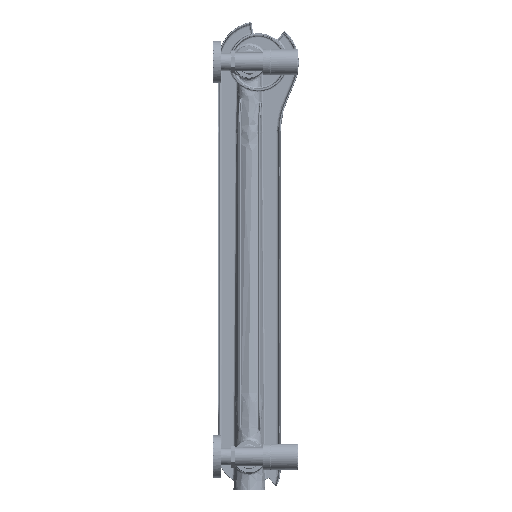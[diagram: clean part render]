
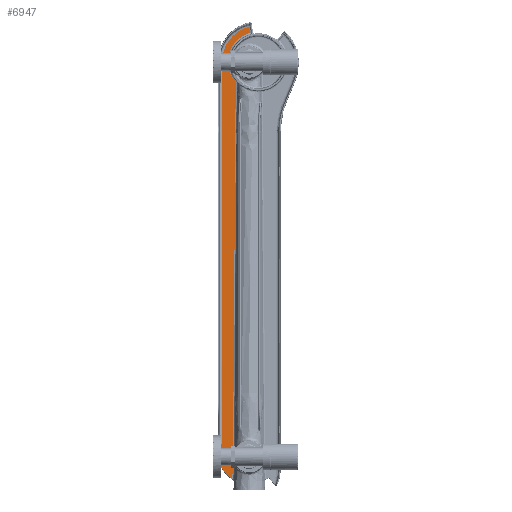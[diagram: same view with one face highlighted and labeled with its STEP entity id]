
A CAD part, left-side view. The second image highlights one B-rep face of the part: STEP entity #6947.
In plain terms, the highlighted planar face has unit normal (-1, 0, 0).
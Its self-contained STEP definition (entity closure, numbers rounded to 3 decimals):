
#6947=ADVANCED_FACE('',(#14687),#112179,.T.);
#14687=FACE_OUTER_BOUND('',#22466,.T.);
#22466=EDGE_LOOP('',(#55105,#55106,#55107,#55108,#55109,#55110,#55111,#55112,
#55113,#55114,#55115,#55116,#55117,#55118));
#55105=ORIENTED_EDGE('',*,*,#74740,.T.);
#55106=ORIENTED_EDGE('',*,*,#74744,.T.);
#55107=ORIENTED_EDGE('',*,*,#74747,.T.);
#55108=ORIENTED_EDGE('',*,*,#75002,.T.);
#55109=ORIENTED_EDGE('',*,*,#74279,.T.);
#55110=ORIENTED_EDGE('',*,*,#74276,.T.);
#55111=ORIENTED_EDGE('',*,*,#74821,.T.);
#55112=ORIENTED_EDGE('',*,*,#74822,.T.);
#55113=ORIENTED_EDGE('',*,*,#74826,.T.);
#55114=ORIENTED_EDGE('',*,*,#74836,.T.);
#55115=ORIENTED_EDGE('',*,*,#74783,.T.);
#55116=ORIENTED_EDGE('',*,*,#74782,.T.);
#55117=ORIENTED_EDGE('',*,*,#74738,.T.);
#55118=ORIENTED_EDGE('',*,*,#73978,.T.);
#73978=EDGE_CURVE('',#103365,#103369,#87732,.T.);
#74276=EDGE_CURVE('',#103548,#103567,#93491,.T.);
#74279=EDGE_CURVE('',#103518,#103548,#93494,.T.);
#74738=EDGE_CURVE('',#103824,#103365,#88300,.T.);
#74740=EDGE_CURVE('',#103369,#103830,#88302,.T.);
#74744=EDGE_CURVE('',#103830,#103832,#88306,.T.);
#74747=EDGE_CURVE('',#103832,#103834,#88309,.T.);
#74782=EDGE_CURVE('',#103857,#103824,#88337,.T.);
#74783=EDGE_CURVE('',#103859,#103857,#93623,.T.);
#74821=EDGE_CURVE('',#103567,#103879,#88368,.T.);
#74822=EDGE_CURVE('',#103879,#103881,#93631,.T.);
#74826=EDGE_CURVE('',#103881,#103883,#88371,.T.);
#74836=EDGE_CURVE('',#103883,#103859,#93633,.T.);
#75002=EDGE_CURVE('',#103834,#103518,#88498,.T.);
#87732=(
BOUNDED_CURVE()
B_SPLINE_CURVE(2,(#375368,#375369,#375370),.UNSPECIFIED.,.F.,.F.)
B_SPLINE_CURVE_WITH_KNOTS((3,3),(-24.275,0.),.UNSPECIFIED.)
CURVE()
GEOMETRIC_REPRESENTATION_ITEM()
RATIONAL_B_SPLINE_CURVE((1.,0.871,1.))
REPRESENTATION_ITEM('')
);
#88300=(
BOUNDED_CURVE()
B_SPLINE_CURVE(3,(#380344,#380345,#380346,#380347),.UNSPECIFIED.,.F.,.F.)
B_SPLINE_CURVE_WITH_KNOTS((4,4),(-1.,0.),.UNSPECIFIED.)
CURVE()
GEOMETRIC_REPRESENTATION_ITEM()
RATIONAL_B_SPLINE_CURVE((1.,1.,1.,1.))
REPRESENTATION_ITEM('')
);
#88302=(
BOUNDED_CURVE()
B_SPLINE_CURVE(3,(#380352,#380353,#380354,#380355),.UNSPECIFIED.,.F.,.F.)
B_SPLINE_CURVE_WITH_KNOTS((4,4),(0.,1.),.UNSPECIFIED.)
CURVE()
GEOMETRIC_REPRESENTATION_ITEM()
RATIONAL_B_SPLINE_CURVE((1.,1.,1.,1.))
REPRESENTATION_ITEM('')
);
#88306=(
BOUNDED_CURVE()
B_SPLINE_CURVE(3,(#380366,#380367,#380368,#380369),.UNSPECIFIED.,.F.,.F.)
B_SPLINE_CURVE_WITH_KNOTS((4,4),(0.,1.),.UNSPECIFIED.)
CURVE()
GEOMETRIC_REPRESENTATION_ITEM()
RATIONAL_B_SPLINE_CURVE((1.,1.,1.,1.))
REPRESENTATION_ITEM('')
);
#88309=(
BOUNDED_CURVE()
B_SPLINE_CURVE(3,(#380377,#380378,#380379,#380380),.UNSPECIFIED.,.F.,.F.)
B_SPLINE_CURVE_WITH_KNOTS((4,4),(0.,1.),.UNSPECIFIED.)
CURVE()
GEOMETRIC_REPRESENTATION_ITEM()
RATIONAL_B_SPLINE_CURVE((1.,1.,1.,1.))
REPRESENTATION_ITEM('')
);
#88337=(
BOUNDED_CURVE()
B_SPLINE_CURVE(2,(#380525,#380526,#380527),.UNSPECIFIED.,.F.,.F.)
B_SPLINE_CURVE_WITH_KNOTS((3,3),(0.,39.461),.UNSPECIFIED.)
CURVE()
GEOMETRIC_REPRESENTATION_ITEM()
RATIONAL_B_SPLINE_CURVE((1.,0.878,1.))
REPRESENTATION_ITEM('')
);
#88368=(
BOUNDED_CURVE()
B_SPLINE_CURVE(2,(#380671,#380672,#380673),.UNSPECIFIED.,.F.,.F.)
B_SPLINE_CURVE_WITH_KNOTS((3,3),(0.,60.311),.UNSPECIFIED.)
CURVE()
GEOMETRIC_REPRESENTATION_ITEM()
RATIONAL_B_SPLINE_CURVE((1.,0.793,1.))
REPRESENTATION_ITEM('')
);
#88371=(
BOUNDED_CURVE()
B_SPLINE_CURVE(3,(#380689,#380690,#380691,#380692,#380693,#380694,#380695,
#380696),.UNSPECIFIED.,.F.,.F.)
B_SPLINE_CURVE_WITH_KNOTS((4,2,2,4),(-1.,-0.75,-0.5,0.),
 .UNSPECIFIED.)
CURVE()
GEOMETRIC_REPRESENTATION_ITEM()
RATIONAL_B_SPLINE_CURVE((1.,1.,1.,1.,1.,1.,1.,1.))
REPRESENTATION_ITEM('')
);
#88498=(
BOUNDED_CURVE()
B_SPLINE_CURVE(3,(#381570,#381571,#381572,#381573),.UNSPECIFIED.,.F.,.F.)
B_SPLINE_CURVE_WITH_KNOTS((4,4),(0.,1.),.UNSPECIFIED.)
CURVE()
GEOMETRIC_REPRESENTATION_ITEM()
RATIONAL_B_SPLINE_CURVE((1.,1.,1.,1.))
REPRESENTATION_ITEM('')
);
#93491=B_SPLINE_CURVE_WITH_KNOTS('',1,(#377832,#377833),.UNSPECIFIED.,.F.,
 .F.,(2,2),(0.,7.755),.UNSPECIFIED.);
#93494=B_SPLINE_CURVE_WITH_KNOTS('',3,(#377838,#377839,#377840,#377841,
#377842,#377843,#377844,#377845,#377846,#377847,#377848,#377849,#377850,
#377851),.UNSPECIFIED.,.F.,.F.,(4,2,2,2,2,2,4),(0.,0.25,0.375,
0.5,0.625,0.75,1.),.UNSPECIFIED.);
#93623=B_SPLINE_CURVE_WITH_KNOTS('',1,(#380528,#380529),.UNSPECIFIED.,.F.,
 .F.,(2,2),(0.,0.674),.UNSPECIFIED.);
#93631=B_SPLINE_CURVE_WITH_KNOTS('',1,(#380674,#380675),.UNSPECIFIED.,.F.,
 .F.,(2,2),(0.,478.221),.UNSPECIFIED.);
#93633=B_SPLINE_CURVE_WITH_KNOTS('',1,(#380731,#380732),.UNSPECIFIED.,.F.,
 .F.,(2,2),(0.,1.344),.UNSPECIFIED.);
#103365=VERTEX_POINT('',#373080);
#103369=VERTEX_POINT('',#373084);
#103518=VERTEX_POINT('',#373233);
#103548=VERTEX_POINT('',#373263);
#103567=VERTEX_POINT('',#373282);
#103824=VERTEX_POINT('',#373539);
#103830=VERTEX_POINT('',#373545);
#103832=VERTEX_POINT('',#373547);
#103834=VERTEX_POINT('',#373549);
#103857=VERTEX_POINT('',#373572);
#103859=VERTEX_POINT('',#373574);
#103879=VERTEX_POINT('',#373594);
#103881=VERTEX_POINT('',#373596);
#103883=VERTEX_POINT('',#373598);
#112179=PLANE('',#113575);
#113575=AXIS2_PLACEMENT_3D('',#364474,#114467,$);
#114467=DIRECTION('',(-1.,0.,0.));
#364474=CARTESIAN_POINT('',(-26.254,12.606,17.603));
#373080=CARTESIAN_POINT('',(-26.254,10.275,25.09));
#373084=CARTESIAN_POINT('',(-26.254,10.232,27.412));
#373233=CARTESIAN_POINT('',(-26.254,9.904,73.673));
#373263=CARTESIAN_POINT('',(-26.254,8.093,79.896));
#373282=CARTESIAN_POINT('',(-26.254,8.228,80.66));
#373539=CARTESIAN_POINT('',(-26.254,10.328,23.391));
#373545=CARTESIAN_POINT('',(-26.254,10.191,33.179));
#373547=CARTESIAN_POINT('',(-26.254,9.949,67.358));
#373549=CARTESIAN_POINT('',(-26.254,9.912,72.68));
#373572=CARTESIAN_POINT('',(-26.254,12.141,26.712));
#373574=CARTESIAN_POINT('',(-26.254,12.141,26.78));
#373594=CARTESIAN_POINT('',(-26.254,11.645,76.212));
#373596=CARTESIAN_POINT('',(-26.254,11.645,28.39));
#373598=CARTESIAN_POINT('',(-26.254,12.006,26.78));
#375368=CARTESIAN_POINT('',(-26.254,10.275,25.09));
#375369=CARTESIAN_POINT('',(-26.254,10.907,26.263));
#375370=CARTESIAN_POINT('',(-26.254,10.232,27.412));
#377832=CARTESIAN_POINT('',(-26.254,8.093,79.896));
#377833=CARTESIAN_POINT('',(-26.254,8.228,80.66));
#377838=CARTESIAN_POINT('',(-26.254,9.904,73.673));
#377839=CARTESIAN_POINT('',(-26.254,10.336,74.159));
#377840=CARTESIAN_POINT('',(-26.254,10.636,74.746));
#377841=CARTESIAN_POINT('',(-26.254,10.849,75.691));
#377842=CARTESIAN_POINT('',(-26.254,10.879,76.014));
#377843=CARTESIAN_POINT('',(-26.254,10.859,76.655));
#377844=CARTESIAN_POINT('',(-26.254,10.808,76.979));
#377845=CARTESIAN_POINT('',(-26.254,10.628,77.594));
#377846=CARTESIAN_POINT('',(-26.254,10.5,77.892));
#377847=CARTESIAN_POINT('',(-26.254,10.17,78.447));
#377848=CARTESIAN_POINT('',(-26.254,9.973,78.7));
#377849=CARTESIAN_POINT('',(-26.254,9.287,79.383));
#377850=CARTESIAN_POINT('',(-26.254,8.716,79.718));
#377851=CARTESIAN_POINT('',(-26.254,8.093,79.896));
#380344=CARTESIAN_POINT('',(-26.254,10.328,23.391));
#380345=CARTESIAN_POINT('',(-26.254,10.31,23.957));
#380346=CARTESIAN_POINT('',(-26.254,10.293,24.523));
#380347=CARTESIAN_POINT('',(-26.254,10.275,25.09));
#380352=CARTESIAN_POINT('',(-26.254,10.232,27.412));
#380353=CARTESIAN_POINT('',(-26.254,10.218,29.334));
#380354=CARTESIAN_POINT('',(-26.254,10.204,31.256));
#380355=CARTESIAN_POINT('',(-26.254,10.191,33.179));
#380366=CARTESIAN_POINT('',(-26.254,10.191,33.179));
#380367=CARTESIAN_POINT('',(-26.254,10.11,44.572));
#380368=CARTESIAN_POINT('',(-26.254,10.03,55.965));
#380369=CARTESIAN_POINT('',(-26.254,9.949,67.358));
#380377=CARTESIAN_POINT('',(-26.254,9.949,67.358));
#380378=CARTESIAN_POINT('',(-26.254,9.937,69.132));
#380379=CARTESIAN_POINT('',(-26.254,9.924,70.906));
#380380=CARTESIAN_POINT('',(-26.254,9.912,72.68));
#380525=CARTESIAN_POINT('',(-26.254,12.141,26.712));
#380526=CARTESIAN_POINT('',(-26.254,12.141,24.557));
#380527=CARTESIAN_POINT('',(-26.254,10.328,23.391));
#380528=CARTESIAN_POINT('',(-26.254,12.141,26.78));
#380529=CARTESIAN_POINT('',(-26.254,12.141,26.712));
#380671=CARTESIAN_POINT('',(-26.254,8.228,80.66));
#380672=CARTESIAN_POINT('',(-26.254,11.645,79.749));
#380673=CARTESIAN_POINT('',(-26.254,11.645,76.212));
#380674=CARTESIAN_POINT('',(-26.254,11.645,76.212));
#380675=CARTESIAN_POINT('',(-26.254,11.645,28.39));
#380689=CARTESIAN_POINT('',(-26.254,11.645,28.39));
#380690=CARTESIAN_POINT('',(-26.254,11.645,28.251));
#380691=CARTESIAN_POINT('',(-26.254,11.659,28.114));
#380692=CARTESIAN_POINT('',(-26.254,11.702,27.842));
#380693=CARTESIAN_POINT('',(-26.254,11.731,27.707));
#380694=CARTESIAN_POINT('',(-26.254,11.833,27.305));
#380695=CARTESIAN_POINT('',(-26.254,11.92,27.042));
#380696=CARTESIAN_POINT('',(-26.254,12.006,26.78));
#380731=CARTESIAN_POINT('',(-26.254,12.006,26.78));
#380732=CARTESIAN_POINT('',(-26.254,12.141,26.78));
#381570=CARTESIAN_POINT('',(-26.254,9.912,72.68));
#381571=CARTESIAN_POINT('',(-26.254,9.909,73.011));
#381572=CARTESIAN_POINT('',(-26.254,9.907,73.342));
#381573=CARTESIAN_POINT('',(-26.254,9.904,73.673));
